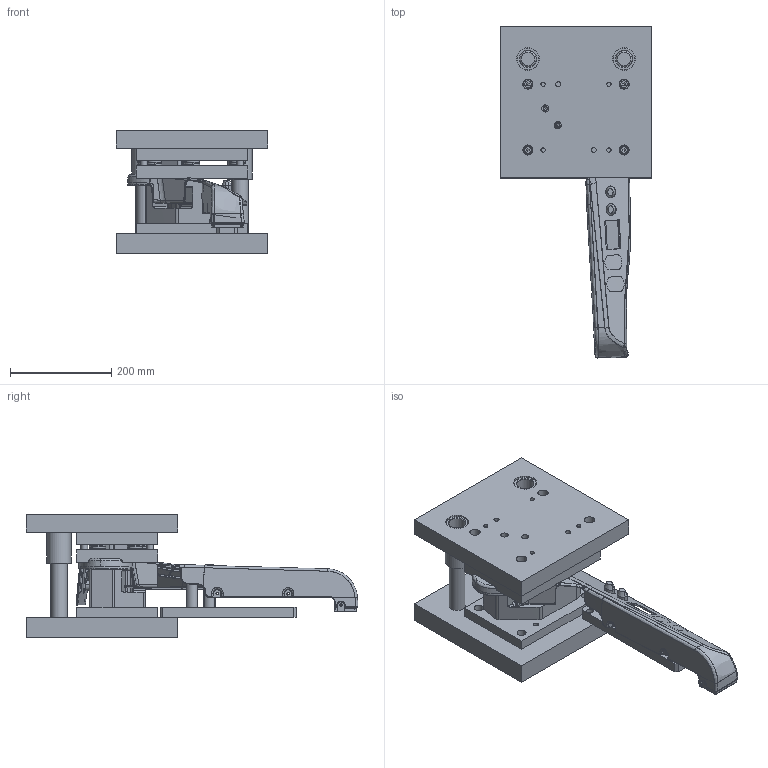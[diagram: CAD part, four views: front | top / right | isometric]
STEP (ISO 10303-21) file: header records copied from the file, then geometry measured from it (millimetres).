
FILE_DESCRIPTION(/* description */ (''),/* implementation_level */ '2;1');
FILE_NAME(/* name */ 'SQX3000-6906600-CM2-PI_1__x_t.stp',/* time_stamp */ '2022-09-14T11:54:14+08:00',/* author */ (''),/* organization */ (''),/* preprocessor_version */ 'ST-DEVELOPER v14',/* originating_system */ 'SIEMENS PLM Software NX 8.0',/* authorisation */ '');
FILE_SCHEMA (('AP203_CONFIGURATION_CONTROLLED_3D_DESIGN_OF_MECHANICAL_PARTS_AND_ASSEMBLIES_MIM_LF { 1 0 10303 403 2 1 2}'));
Products named in the file (1): Admi1598F2766la5
Bounding box: 300 x 655.66 x 243.36 mm (x, y, z)
Volume: 10562050.2 mm3; surface area: 1574993 mm2
Topology: 28 solids, 30 shells, 2320 faces, 8688 edges, 6458 vertices
Faces by surface type: bspline 1212, plane 542, cylinder 447, extrusion 71, cone 32, torus 10, sphere 6
Full cylindrical faces by diameter (mm): 5 x4, 6.8 x8, 8 x4, 8.5 x13, 9 x4, 10 x8, 11 x9, 12.1 x2, 13 x12, 14 x4, 15 x42, 18 x13, 20 x4, 30 x42, 31 x8, 32 x8, 33 x2, 45 x4, 48 x2
Entity records: 290636 total; most frequent: CARTESIAN_POINT 235677, ORIENTED_EDGE 16450, EDGE_CURVE 8228, B_SPLINE_CURVE_WITH_KNOTS 7171, VERTEX_POINT 6235, DIRECTION 3613, EDGE_LOOP 2634, ADVANCED_FACE 2248
